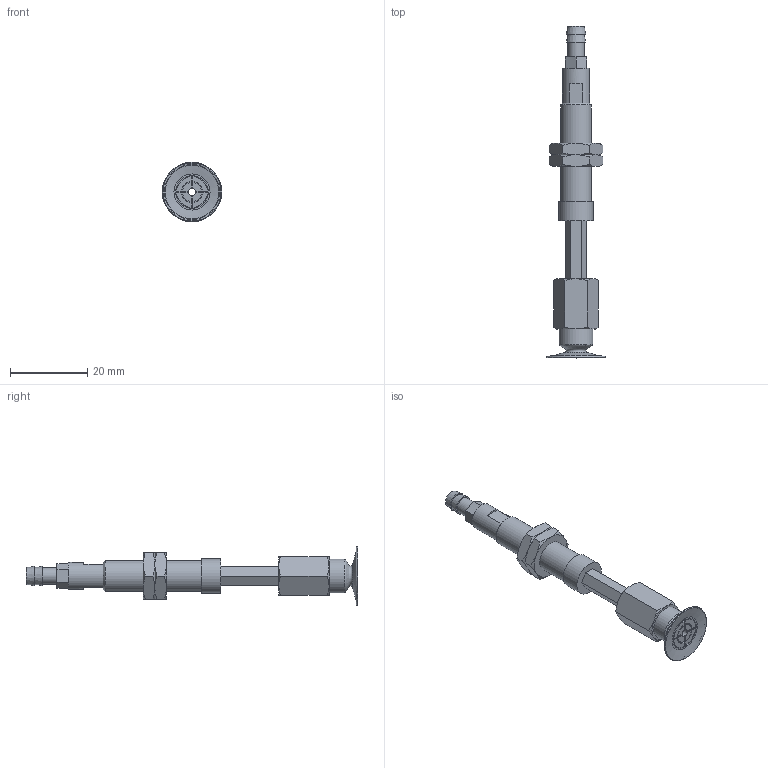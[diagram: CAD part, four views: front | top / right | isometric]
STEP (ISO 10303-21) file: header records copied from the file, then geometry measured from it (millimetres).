
FILE_DESCRIPTION(('STEP AP203'),'1');
FILE_NAME('-T.stp','2025-08-21T08:06:58',(' '),(' '),'Spatial InterOp 3D',' ',' ');
FILE_SCHEMA(('CONFIG_CONTROL_DESIGN'));
Length unit declared in the file: millimetre
Products named in the file (7): BNABPATH-15B-15-※-T; ADAPTER; NAPATH-10A-15--M; NAPATH-10A-15--F; Nut-10A-S; CONNECTOR-10A-3-T-PA; BPAG-15B-※
Assembly tree (7 placements, depth 2):
  BNABPATH-15B-15-※-T
    ADAPTER
    NAPATH-10A-15--M
    NAPATH-10A-15--F
    Nut-10A-S  x2
    CONNECTOR-10A-3-T-PA
    BPAG-15B-※
Bounding box: 15.4 x 86 x 15.4 mm (x, y, z)
Volume: 4132.4 mm3; surface area: 5368.7 mm2
Topology: 7 solids, 7 shells, 183 faces, 410 edges, 252 vertices
Faces by surface type: plane 85, cone 58, cylinder 30, torus 10
Full cylindrical faces by diameter (mm): 2 x3, 3 x1, 4 x2, 4.134 x1, 4.3 x1, 5 x1, 6 x2, 7 x1, 7.188 x2, 8 x1, 8.5 x1, 8.7 x1, 9 x1
Entity records: 4746 total; most frequent: CARTESIAN_POINT 1059, DIRECTION 696, ORIENTED_EDGE 622, EDGE_CURVE 311, AXIS2_PLACEMENT_3D 280, EDGE_LOOP 222, VERTEX_POINT 213, FACE_OUTER_BOUND 187
